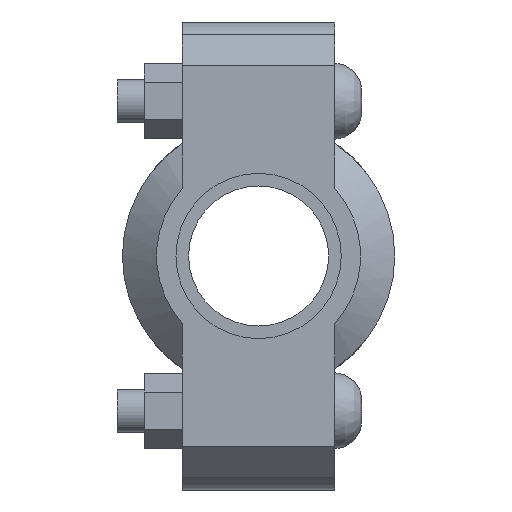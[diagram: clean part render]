
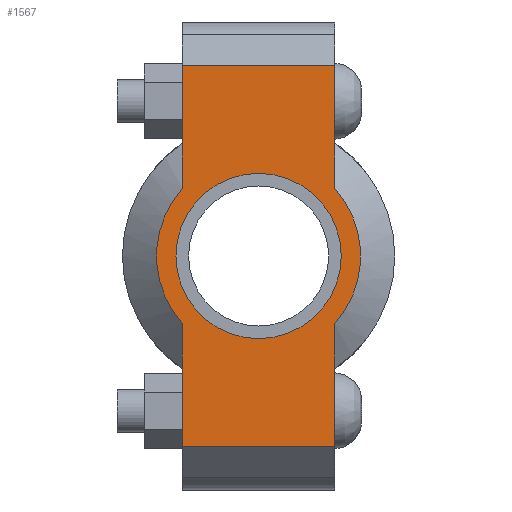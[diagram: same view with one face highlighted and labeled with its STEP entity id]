
A CAD part, left-side view. The second image highlights one B-rep face of the part: STEP entity #1567.
In plain terms, the highlighted planar face has unit normal (-1, 0, 0) as drawn and (0, 0, 1) by its records, which use the part's own axes.
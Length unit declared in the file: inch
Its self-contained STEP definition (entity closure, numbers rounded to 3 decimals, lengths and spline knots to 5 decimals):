
#178=LINE('',#2693,#273);
#193=LINE('',#2752,#288);
#201=LINE('',#2782,#296);
#203=LINE('',#2785,#298);
#204=LINE('',#2790,#299);
#205=LINE('',#2791,#300);
#273=VECTOR('',#2171,0.3937);
#288=VECTOR('',#2206,0.3937);
#296=VECTOR('',#2226,0.3937);
#298=VECTOR('',#2230,0.3937);
#299=VECTOR('',#2235,0.3937);
#300=VECTOR('',#2236,0.3937);
#360=FACE_BOUND('',#519,.T.);
#420=FACE_OUTER_BOUND('',#518,.T.);
#518=EDGE_LOOP('',(#1262,#1263,#1264,#1265,#1266,#1267,#1268,#1269));
#519=EDGE_LOOP('',(#1270));
#624=CIRCLE('',#1830,1.172);
#625=CIRCLE('',#1831,1.172);
#626=CIRCLE('',#1832,0.95);
#733=VERTEX_POINT('',#2690);
#734=VERTEX_POINT('',#2692);
#755=VERTEX_POINT('',#2747);
#756=VERTEX_POINT('',#2751);
#765=VERTEX_POINT('',#2777);
#766=VERTEX_POINT('',#2781);
#767=VERTEX_POINT('',#2787);
#768=VERTEX_POINT('',#2789);
#769=VERTEX_POINT('',#2793);
#903=EDGE_CURVE('',#734,#733,#178,.T.);
#928=EDGE_CURVE('',#756,#755,#193,.T.);
#941=EDGE_CURVE('',#766,#765,#201,.T.);
#943=EDGE_CURVE('',#766,#733,#203,.T.);
#944=EDGE_CURVE('',#765,#767,#624,.T.);
#945=EDGE_CURVE('',#767,#768,#204,.T.);
#946=EDGE_CURVE('',#756,#768,#205,.T.);
#947=EDGE_CURVE('',#755,#734,#625,.T.);
#948=EDGE_CURVE('',#769,#769,#626,.T.);
#1262=ORIENTED_EDGE('',*,*,#943,.F.);
#1263=ORIENTED_EDGE('',*,*,#941,.T.);
#1264=ORIENTED_EDGE('',*,*,#944,.T.);
#1265=ORIENTED_EDGE('',*,*,#945,.T.);
#1266=ORIENTED_EDGE('',*,*,#946,.F.);
#1267=ORIENTED_EDGE('',*,*,#928,.T.);
#1268=ORIENTED_EDGE('',*,*,#947,.T.);
#1269=ORIENTED_EDGE('',*,*,#903,.T.);
#1270=ORIENTED_EDGE('',*,*,#948,.T.);
#1419=PLANE('',#1829);
#1567=ADVANCED_FACE('',(#420,#360),#1419,.T.);
#1829=AXIS2_PLACEMENT_3D('',#2786,#2231,#2232);
#1830=AXIS2_PLACEMENT_3D('',#2788,#2233,#2234);
#1831=AXIS2_PLACEMENT_3D('',#2792,#2237,#2238);
#1832=AXIS2_PLACEMENT_3D('',#2794,#2239,#2240);
#2171=DIRECTION('',(1.,0.,0.));
#2206=DIRECTION('',(1.,0.,0.));
#2226=DIRECTION('',(-1.,0.,0.));
#2230=DIRECTION('',(0.,-1.,0.));
#2231=DIRECTION('center_axis',(0.,0.,1.));
#2232=DIRECTION('ref_axis',(-1.,0.,0.));
#2233=DIRECTION('center_axis',(0.,0.,1.));
#2234=DIRECTION('ref_axis',(1.,0.,0.));
#2235=DIRECTION('',(-1.,0.,0.));
#2236=DIRECTION('',(0.,1.,0.));
#2237=DIRECTION('center_axis',(0.,0.,1.));
#2238=DIRECTION('ref_axis',(1.,0.,0.));
#2239=DIRECTION('center_axis',(0.,0.,-1.));
#2240=DIRECTION('ref_axis',(1.,0.,0.));
#2690=CARTESIAN_POINT('',(2.19,-0.875,0.94));
#2692=CARTESIAN_POINT('',(0.77972,-0.875,0.94));
#2693=CARTESIAN_POINT('',(-2.69,-0.875,0.94));
#2747=CARTESIAN_POINT('',(-0.77972,-0.875,0.94));
#2751=CARTESIAN_POINT('',(-2.19,-0.875,0.94));
#2752=CARTESIAN_POINT('',(-2.69,-0.875,0.94));
#2777=CARTESIAN_POINT('',(0.77972,0.875,0.94));
#2781=CARTESIAN_POINT('',(2.19,0.875,0.94));
#2782=CARTESIAN_POINT('',(2.69,0.875,0.94));
#2785=CARTESIAN_POINT('',(2.19,-0.4375,0.94));
#2786=CARTESIAN_POINT('Origin',(0.,0.,
0.94));
#2787=CARTESIAN_POINT('',(-0.77972,0.875,0.94));
#2788=CARTESIAN_POINT('Origin',(0.,0.,0.94));
#2789=CARTESIAN_POINT('',(-2.19,0.875,0.94));
#2790=CARTESIAN_POINT('',(2.69,0.875,0.94));
#2791=CARTESIAN_POINT('',(-2.19,0.4375,0.94));
#2792=CARTESIAN_POINT('Origin',(0.,0.,0.94));
#2793=CARTESIAN_POINT('',(-0.95,0.,0.94));
#2794=CARTESIAN_POINT('Origin',(0.,0.,0.94));
